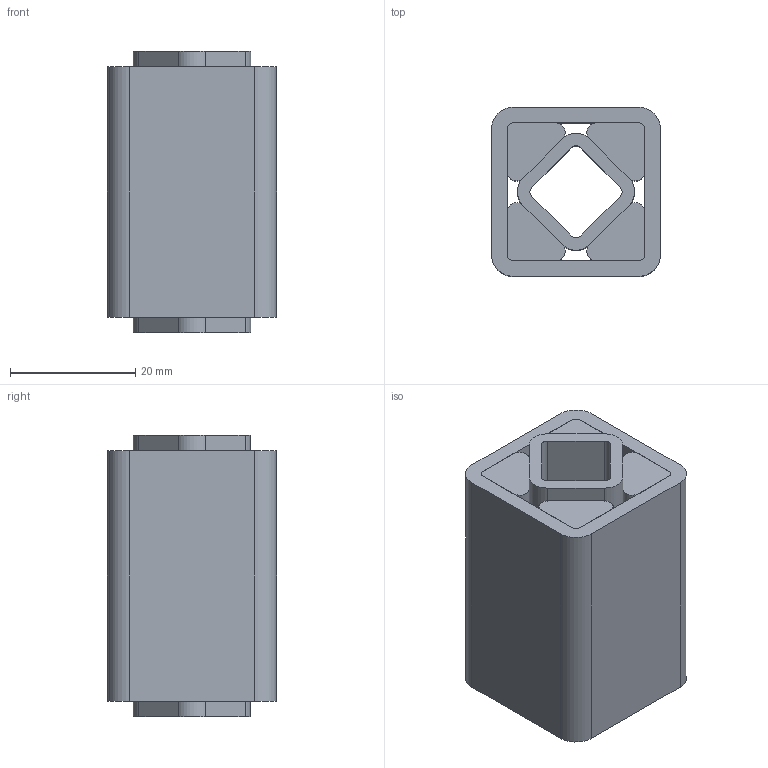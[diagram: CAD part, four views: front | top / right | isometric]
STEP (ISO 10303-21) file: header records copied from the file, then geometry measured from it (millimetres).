
FILE_DESCRIPTION((''),'2;1');
FILE_NAME('D:\ROSTA\Gummifederelemente\3D\DR-S15x40_01021005.stp','2005-02-02T04:08:43',('Administrator'),(''),'Autodesk Inventor 8','Autodesk Inventor 8','');
FILE_SCHEMA(('AUTOMOTIVE_DESIGN { 1 0 10303 214 1 1 1 1 }'));
Length unit declared in the file: millimetre
Products named in the file (4): Baugruppe1; 4.4.3726-005; 4.4.3726-006; 4.4.3726-007
Assembly tree (6 placements, depth 2):
  Baugruppe1
    4.4.3726-005
    4.4.3726-006
    4.4.3726-007  x4
Bounding box: 27 x 27 x 45 mm (x, y, z)
Volume: 23245.1 mm3; surface area: 18008.5 mm2
Topology: 6 solids, 6 shells, 68 faces, 168 edges, 112 vertices
Faces by surface type: plane 40, cylinder 28
Entity records: 1491 total; most frequent: DIRECTION 260, CARTESIAN_POINT 244, ORIENTED_EDGE 228, EDGE_CURVE 114, AXIS2_PLACEMENT_3D 92, VERTEX_POINT 76, VECTOR 76, LINE 76
